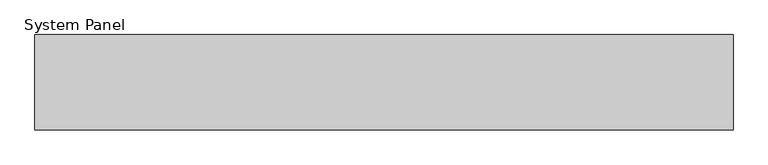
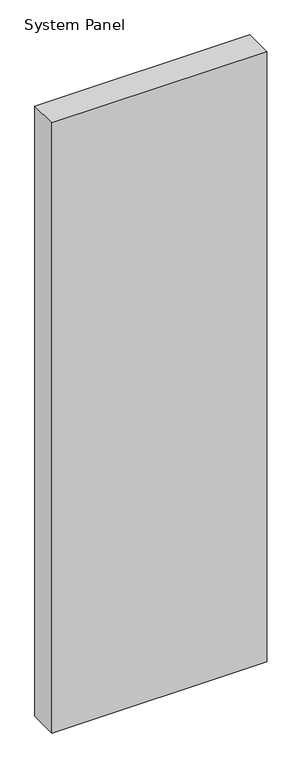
"""IFC4 building model written with IfcOpenShell, lengths in millimetres: plate geometry, System Panel : MetecnoPanel_150mm_Plain_Surfmist."""

from ifc_helpers import new_model, si_unit, origin, origin_with_axes, place, context, project, spatial, polyline, outline, extrude, source, transform, mapped, element, save


def system_panel_07ade12d(model_context):
    return source(origin(), model_context, "Body", "SweptSolid", [
        extrude(outline(polyline([(550.0, 0.0), (-550.0, 0.0), (-550.0, 150.0), (550.0, 150.0), (550.0, 0.0)])), origin_with_axes(), (0.0, 0.0, 1.0), 3300.0),
    ])


if __name__ == "__main__":
    model = new_model("IFC4")
    model_context = context("Model", 3, world=origin())
    ifc_project = project(units=[si_unit("LENGTHUNIT", "METRE", prefix="MILLI")], contexts=[model_context])
    site = spatial("IfcSite", under=ifc_project)
    building = spatial("IfcBuilding", under=site)
    placement = place(None, origin())
    system_panel_shape = system_panel_07ade12d(model_context)
    element("IfcPlate", 1, ObjectType="System Panel : MetecnoPanel_150mm_Plain_Surfmist", at=placement, inside=building, context=model_context, shape_type="MappedRepresentation", body=[
        mapped(system_panel_shape, transform((0.0, 0.0, 0.0), x_axis=(1.0, 0.0, 0.0), y_axis=(0.0, 1.0, 0.0), z_axis=(0.0, 0.0, 1.0))),
    ])
    save(model, "model.ifc")
